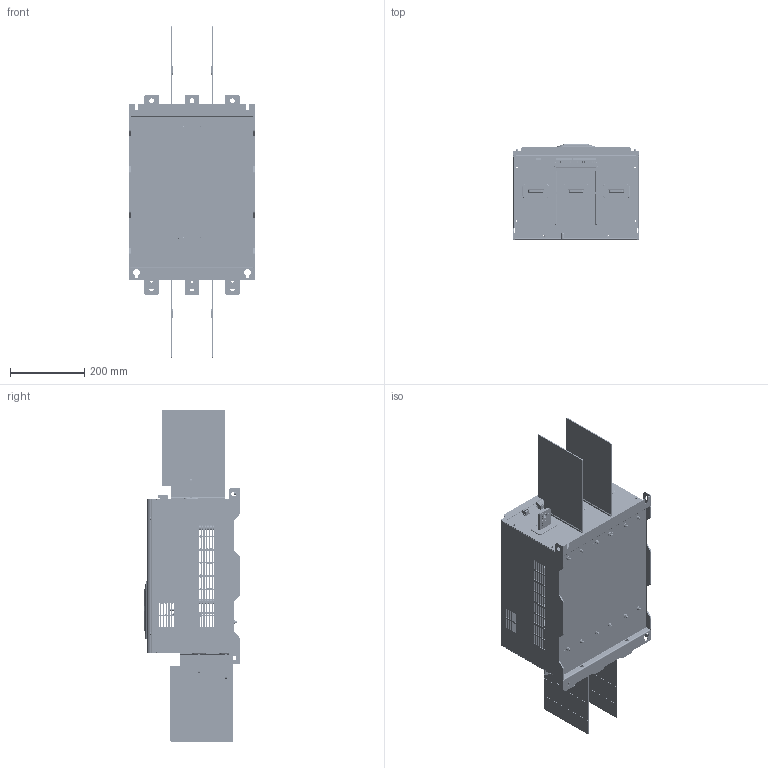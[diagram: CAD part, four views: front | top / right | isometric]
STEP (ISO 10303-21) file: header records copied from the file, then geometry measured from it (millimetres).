
FILE_DESCRIPTION((''),'2;1');
FILE_NAME('EX9QR5-630-D_ASM','2023-07-17T10:50:23',('ruanmm'),(''),'CREO PARAMETRIC BY PTC INC, 2020044','CREO PARAMETRIC BY PTC INC, 2020044','');
FILE_SCHEMA(('CONFIG_CONTROL_DESIGN','SHAPE_APPEARANCE_LAYERS_GROUPS'));
Products named in the file (113): NJR3-F4-WK-1_22_1; S-M5-2_1_1; E-M8_2_1; S-M6-2_1_1; NJR3-F4-WK-1-ASM_ASM_21_ASM_1_ASM; NJR3-F4-CEB-Z-1_29_1; S-M4-2_1_1; NJR3-F4-CEB-Z-1-ASM_ASM_45_ASM__ASM; NJR3-F4-ZHIJIA-1-1_1_1; NJR3-F4-ZHIJIA-1-1__ASM_1_ASM_1_ASM; EX9QR5-370-D-BXJ_1_1; NJR3-F4-CEB-Z-1__ASM_22_ASM_1_ASM; NJR3-F4-CEB-Y-1_31_1; NJR3-F4-CEB-Y-1-ASM_ASM_31_ASM__ASM; NJR3-F4-CEB-Y-1__ASM_24_ASM_1_ASM; NJR3-F4-DIZUO_ASM_38_ASM_1_ASM; TOP-PLATE-NEW_17_1; NED-PL-A_5_1; PRT0003_5_1; TOP-PLATE-NEW-ASM_ASM_14_ASM_1_ASM; PVC-POST_1_1; GB-T9074-4-M4-10_1_1; PVC-POST-L-N_2_1; EX9QR5-D-BOX-PLAY_13_2_1; SHANGGAI-XIN__2_1_1_1; M3TONG__1_1_1_1; PCB-BL_1_1_1; XLB-XIN-3_ASM_1_ASM_1_ASM_1_ASM; MANIFOLD_SOLID_BREP_40621_1_1_1; MANIFOLD_SOLID_BREP_40621_1_2_1; MANIFOLD_SOLID_BREP_40621_1_3_1; MANIFOLD_SOLID_BREP_40621_1_4_1; MANIFOLD_SOLID_BREP_40621_1_5_1; MANIFOLD_SOLID_BREP_40621_1_6_1; MANIFOLD_SOLID_BREP_40621_1_7_1; MANIFOLD_SOLID_BREP_40621_1_8_1; MANIFOLD_SOLID_BREP_40621_1_9_1; MANIFOLD_SOLID_BREP_40621_1_10_; MANIFOLD_SOLID_BREP_40621_1_11_; MANIFOLD_SOLID_BREP_40621_1_12_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
Assembly tree (192 placements, depth 11):
  EX9QR5-630-D_ASM
    ASM0003_ASM_1_ASM
      EX9QR5-315-4-D_ASM_154_ASM_1_ASM
        NJR2-ZX-160KW-WK_ASM_65_ASM_1_ASM
          NJR3-F4-DIZUO_ASM_38_ASM_1_ASM
            NJR3-F4-WK-1-ASM_ASM_21_ASM_1_ASM
              NJR3-F4-WK-1_22_1
              S-M5-2_1_1  x4
              E-M8_2_1
              S-M6-2_1_1  x12
            NJR3-F4-CEB-Z-1__ASM_22_ASM_1_ASM
              NJR3-F4-CEB-Z-1-ASM_ASM_45_ASM__ASM
                NJR3-F4-CEB-Z-1_29_1
                S-M4-2_1_1  x2
                S-M5-2_1_1  x4
              NJR3-F4-ZHIJIA-1-1__ASM_1_ASM_1_ASM  x3
                NJR3-F4-ZHIJIA-1-1_1_1
                S-M4-2_1_1
              EX9QR5-370-D-BXJ_1_1  x2
            NJR3-F4-CEB-Y-1__ASM_24_ASM_1_ASM
              NJR3-F4-CEB-Y-1-ASM_ASM_31_ASM__ASM
                NJR3-F4-CEB-Y-1_31_1
                S-M4-2_1_1  x2
                S-M5-2_1_1  x4
              NJR3-F4-ZHIJIA-1-1__ASM_1_ASM_1_ASM  x3
                NJR3-F4-ZHIJIA-1-1_1_1
                S-M4-2_1_1
          NJR3-F2-GAI-1__ASM_21_ASM_1_ASM
            TOP-PLATE-NEW-ASM_ASM_14_ASM_1_ASM
              TOP-PLATE-NEW_17_1
              NED-PL-A_5_1
              PRT0003_5_1
            PVC-POST_1_1
            GB-T9074-4-M4-10_1_1  x4
            PVC-POST-L-N_2_1
            EX9QR5-D-BOX-ASSEMBLY_ASM_ASM_2_ASM
              EX9QR5-D-BOX-ASSEMBLY_ASM_3_ASM_ASM
                EX9QR5-D-BOX-PLAY_13_2_1
                ZHONGZHUTU2__ASM_1_ASM_1_ASM_1__ASM
                  SHANGGAI-XIN__2_1_1_1
                  M3TONG__1_1_1_1  x4
                  XLB-XIN-3_ASM_1_ASM_1_ASM_1_ASM
                  XSGMP-75ZX-M__2_ASM_1_ASM_1_ASM_ASM
                  YKL-75ZX__2_1_1_1
          EX9QR5-180-CEB-Q-ASM_ASM_47_ASM_ASM
            NJR3-F4-CEB-Q-1_42_1
          EX9QR5-180-CEB--H-ASM_ASM_22_AS_ASM
            EX9QR5-180-CEB-Q-1_36_1
        EQ9QR5-180-ASM-ALL_ASM_48_ASM_1_ASM
          EQ9QR5-180-ASM-1_ASM_23_ASM_1_ASM
            SOOS-M3-10-ZI_1_1  x10
          DYB-1_ASM_1_ASM_6_ASM_1_ASM
            CPU-DIANYUANBAN-ASM_ASM_2-22518_ASM
              CPU-DIANYUANBAN-ASM_ASM_2-15049_ASM
                PCB-5-MENG_1_1_2_1
                NJR-5-PCB-2_1_1_2_1
                NJR5-QIAO-PCB-22_1_1_2_1
                PTB750B-03-5-06-3----7-62-4P__1
                PTB750B-03-12---5-08-12P__1_1_1
            PLASTIC-HASAMI_5_1_2_1
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Bounding box: 338 x 257.1 x 897 mm (x, y, z)
Volume: 2460701 mm3; surface area: 2352131.6 mm2
Topology: 210 solids, 223 shells, 22779 faces, 60411 edges, 39776 vertices
Faces by surface type: plane 19764, cylinder 2370, cone 360, torus 166, bspline 86, sphere 26, extrusion 7
Entity records: 336555 total; most frequent: CARTESIAN_POINT 54733, ORIENTED_EDGE 47010, DIRECTION 44063, EDGE_CURVE 23507, VECTOR 20891, LINE 20884, VERTEX_POINT 15504, AXIS2_PLACEMENT_3D 11586
